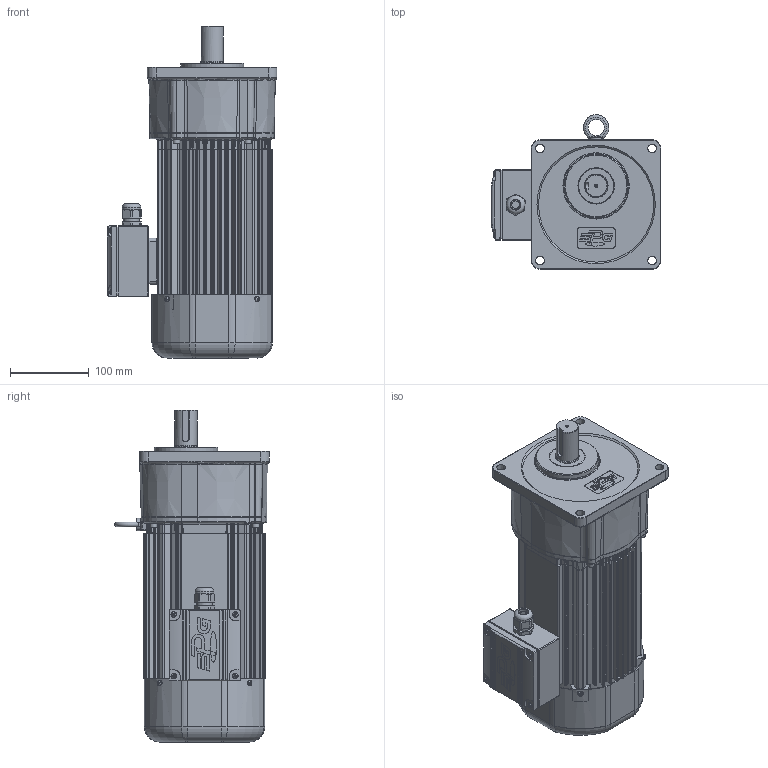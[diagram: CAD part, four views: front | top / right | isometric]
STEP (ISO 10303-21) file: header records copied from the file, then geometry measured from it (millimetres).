
FILE_DESCRIPTION(/* description */ (''),/* implementation_level */ '2;1');
FILE_NAME(/* name */ 'Z:\동력 3D 파일\PAK28_0.75kW_Brake_3D.stp',/* time_stamp */ '2021-11-09T08:57:29+09:00',/* author */ ('jaebok'),/* organization */ (''),/* preprocessor_version */ 'ST-DEVELOPER v18.1',/* originating_system */ 'Autodesk Inventor 2022',/* authorisation */ '');
FILE_SCHEMA (('AUTOMOTIVE_DESIGN { 1 0 10303 214 3 1 1 }'));
Products named in the file (1): 부품14
Bounding box: 215 x 195.78 x 420.5 mm (x, y, z)
Volume: 2401465 mm3; surface area: 716989.8 mm2
Topology: 2 solids, 33 shells, 3440 faces, 8810 edges, 5280 vertices
Faces by surface type: plane 1098, cylinder 943, bspline 830, torus 305, cone 172, sphere 92
Full cylindrical faces by diameter (mm): 2 x1, 3.25 x1, 3.6 x4, 4 x18, 4.2 x4, 4.917 x4, 5 x20, 5.5 x4, 6 x1, 6.647 x1, 7 x13, 8 x9, 8.5 x4, 10 x1, 12.5 x1, 15 x1, 19 x1, 20 x2, 20.6 x1, 21 x2, 23.6 x1, 25 x1, 27 x1, 28 x2, 29.6 x1, 30 x1, 32 x1, 34 x1, 35 x3, 36 x1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
Entity records: 136651 total; most frequent: CARTESIAN_POINT 54927, ORIENTED_EDGE 17180, DIRECTION 15401, EDGE_CURVE 8590, AXIS2_PLACEMENT_3D 6161, VERTEX_POINT 5276, EDGE_LOOP 3635, FACE_OUTER_BOUND 3440
